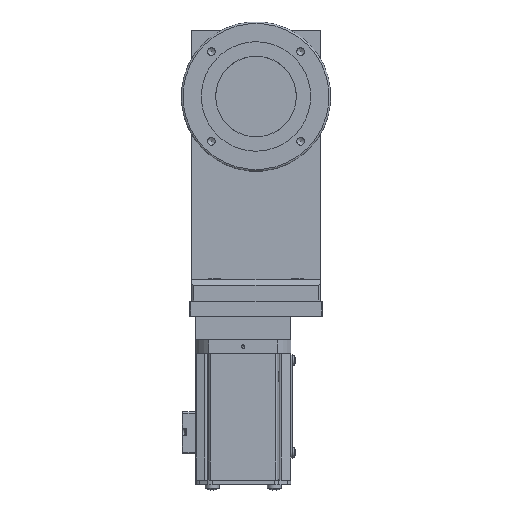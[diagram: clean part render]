
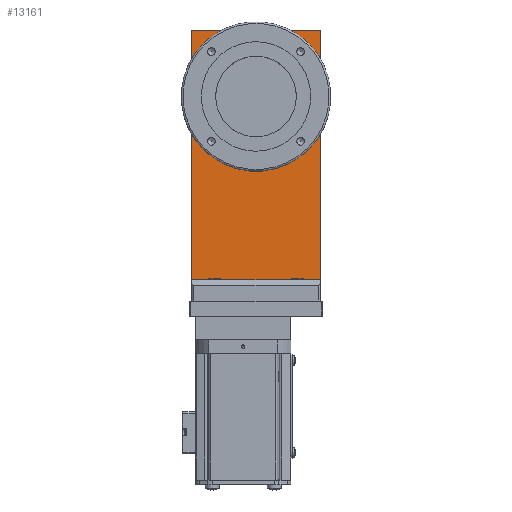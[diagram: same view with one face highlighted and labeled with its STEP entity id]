
A CAD part, top view. The second image highlights one B-rep face of the part: STEP entity #13161.
In plain terms, the highlighted planar face has unit normal (0, 0, 1).
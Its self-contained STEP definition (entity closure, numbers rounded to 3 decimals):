
#5401=LINE('',#33169,#6847);
#5406=LINE('',#33184,#6852);
#5408=LINE('',#33188,#6854);
#5411=LINE('',#33193,#6857);
#6847=VECTOR('',#28479,1.);
#6852=VECTOR('',#28486,1.);
#6854=VECTOR('',#28490,1.);
#6857=VECTOR('',#28495,1.);
#13161=ADVANCED_FACE('',(#14797,#14798),#14207,.T.);
#14207=PLANE('',#26052);
#14797=FACE_BOUND('',#15701,.T.);
#14798=FACE_BOUND('',#15702,.T.);
#15701=EDGE_LOOP('',(#17916,#17917,#17918,#17919));
#15702=EDGE_LOOP('',(#17920));
#17916=ORIENTED_EDGE('',*,*,#23552,.F.);
#17917=ORIENTED_EDGE('',*,*,#23558,.T.);
#17918=ORIENTED_EDGE('',*,*,#23563,.T.);
#17919=ORIENTED_EDGE('',*,*,#23560,.T.);
#17920=ORIENTED_EDGE('',*,*,#23565,.F.);
#21719=VERTEX_POINT('',#33168);
#21720=VERTEX_POINT('',#33170);
#21724=VERTEX_POINT('',#33183);
#21726=VERTEX_POINT('',#33189);
#21728=VERTEX_POINT('',#33198);
#23552=EDGE_CURVE('',#21719,#21720,#5401,.T.);
#23558=EDGE_CURVE('',#21719,#21724,#5406,.T.);
#23560=EDGE_CURVE('',#21726,#21720,#5408,.T.);
#23563=EDGE_CURVE('',#21724,#21726,#5411,.T.);
#23565=EDGE_CURVE('',#21728,#21728,#25293,.T.);
#25293=CIRCLE('',#26050,35.05);
#26050=AXIS2_PLACEMENT_3D('',#33197,#28500,#28501);
#26052=AXIS2_PLACEMENT_3D('',#33200,#28504,#28505);
#28479=DIRECTION('',(-1.,0.,0.));
#28486=DIRECTION('',(0.,1.,0.));
#28490=DIRECTION('',(0.,-1.,0.));
#28495=DIRECTION('',(-1.,0.,0.));
#28500=DIRECTION('',(0.,0.,1.));
#28501=DIRECTION('',(1.,0.,0.));
#28504=DIRECTION('',(0.,0.,1.));
#28505=DIRECTION('',(1.,0.,0.));
#33168=CARTESIAN_POINT('',(56.,-177.8,26.975));
#33169=CARTESIAN_POINT('',(0.,-177.8,26.975));
#33170=CARTESIAN_POINT('',(-56.,-177.8,26.975));
#33183=CARTESIAN_POINT('',(56.,57.05,26.975));
#33184=CARTESIAN_POINT('',(56.,-179.1,26.975));
#33188=CARTESIAN_POINT('',(-56.,57.05,26.975));
#33189=CARTESIAN_POINT('',(-56.,57.05,26.975));
#33193=CARTESIAN_POINT('',(56.,57.05,26.975));
#33197=CARTESIAN_POINT('',(0.,0.,
26.975));
#33198=CARTESIAN_POINT('',(35.05,0.,26.975));
#33200=CARTESIAN_POINT('',(0.,0.,
26.975));
